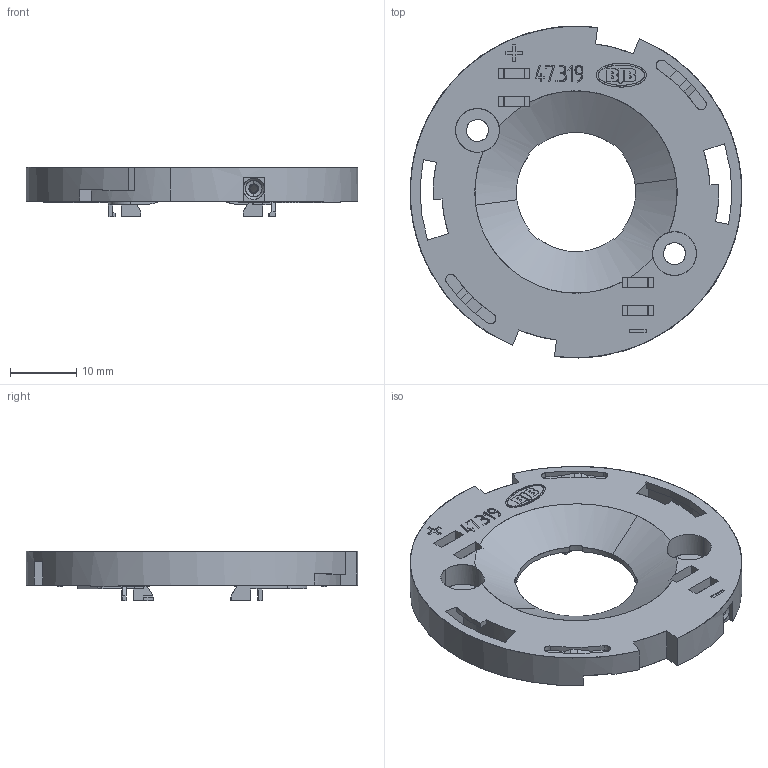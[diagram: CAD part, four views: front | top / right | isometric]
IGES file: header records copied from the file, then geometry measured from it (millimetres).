
Global section: file name: C:\coretechnologie2013\3D-in/01TYA59Y05.igs; native system: CT CoreTechnologie 3D Evolution; preprocessor: 2006; author: assmuth; date: 1150418.135114; units: millimetre
Bounding box: 50 x 50 x 7.5 mm (x, y, z)
Surface area: 7498.8 mm2 (no closed solid volume)
Topology: 0 solids, 0 shells, 698 faces, 3944 edges, 3944 vertices
Faces by surface type: bspline 698
